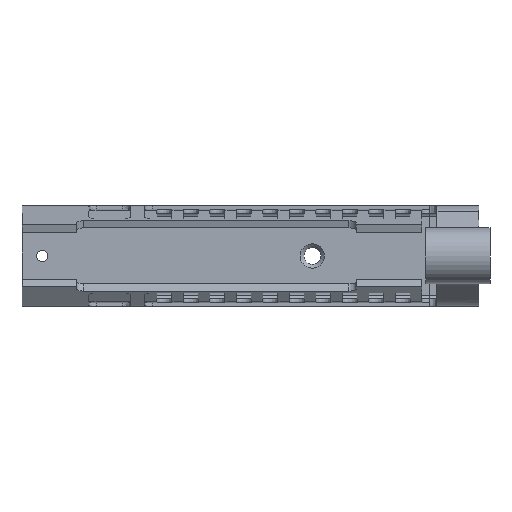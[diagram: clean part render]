
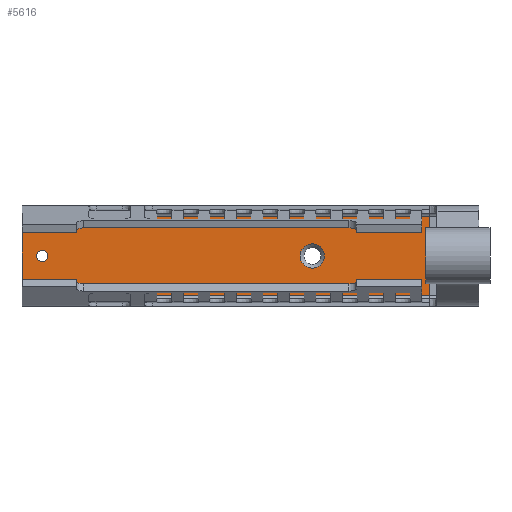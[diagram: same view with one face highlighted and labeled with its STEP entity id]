
A CAD part, top view. The second image highlights one B-rep face of the part: STEP entity #5616.
In plain terms, the highlighted planar face has unit normal (0, 0, 1).
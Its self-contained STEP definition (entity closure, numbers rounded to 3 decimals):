
#19=FACE_BOUND('',#991,.T.);
#20=FACE_BOUND('',#992,.T.);
#298=PLANE('',#6115);
#674=FACE_OUTER_BOUND('',#990,.T.);
#990=EDGE_LOOP('',(#5107,#5108,#5109,#5110));
#991=EDGE_LOOP('',(#5111));
#992=EDGE_LOOP('',(#5112));
#1482=LINE('',#10645,#2006);
#1494=LINE('',#10677,#2018);
#1496=LINE('',#10681,#2020);
#1498=LINE('',#10685,#2022);
#2006=VECTOR('',#7463,10.);
#2018=VECTOR('',#7499,10.);
#2020=VECTOR('',#7505,10.);
#2022=VECTOR('',#7511,10.);
#2103=CIRCLE('',#5692,2.25);
#2104=CIRCLE('',#5694,4.8);
#2341=VERTEX_POINT('',#7788);
#2342=VERTEX_POINT('',#7792);
#2753=VERTEX_POINT('',#10635);
#2754=VERTEX_POINT('',#10639);
#2761=VERTEX_POINT('',#10667);
#2762=VERTEX_POINT('',#10671);
#2835=EDGE_CURVE('',#2341,#2341,#2103,.T.);
#2836=EDGE_CURVE('',#2342,#2342,#2104,.T.);
#3530=EDGE_CURVE('',#2753,#2754,#1482,.T.);
#3546=EDGE_CURVE('',#2761,#2762,#1494,.T.);
#3548=EDGE_CURVE('',#2754,#2761,#1496,.T.);
#3550=EDGE_CURVE('',#2762,#2753,#1498,.T.);
#5107=ORIENTED_EDGE('',*,*,#3530,.T.);
#5108=ORIENTED_EDGE('',*,*,#3548,.T.);
#5109=ORIENTED_EDGE('',*,*,#3546,.T.);
#5110=ORIENTED_EDGE('',*,*,#3550,.T.);
#5111=ORIENTED_EDGE('',*,*,#2835,.T.);
#5112=ORIENTED_EDGE('',*,*,#2836,.T.);
#5616=ADVANCED_FACE('',(#674,#19,#20),#298,.T.);
#5692=AXIS2_PLACEMENT_3D('',#7790,#6222,#6223);
#5694=AXIS2_PLACEMENT_3D('',#7793,#6226,#6227);
#6115=AXIS2_PLACEMENT_3D('',#10686,#7512,#7513);
#6222=DIRECTION('center_axis',(0.,0.,-1.));
#6223=DIRECTION('ref_axis',(-1.,0.,0.));
#6226=DIRECTION('center_axis',(0.,0.,-1.));
#6227=DIRECTION('ref_axis',(1.,0.,0.));
#7463=DIRECTION('',(-1.,0.,0.));
#7499=DIRECTION('',(1.,0.,0.));
#7505=DIRECTION('',(0.,-1.,0.));
#7511=DIRECTION('',(0.,1.,0.));
#7512=DIRECTION('center_axis',(0.,0.,1.));
#7513=DIRECTION('ref_axis',(1.,0.,0.));
#7788=CARTESIAN_POINT('',(10.25,20.,3.));
#7790=CARTESIAN_POINT('Origin',(8.,20.,3.));
#7792=CARTESIAN_POINT('',(110.2,20.,3.));
#7793=CARTESIAN_POINT('Origin',(115.,20.,3.));
#10635=CARTESIAN_POINT('',(161.4,35.5,3.));
#10639=CARTESIAN_POINT('',(0.,35.5,3.));
#10645=CARTESIAN_POINT('',(121.05,35.5,3.));
#10667=CARTESIAN_POINT('',(0.,4.5,3.));
#10671=CARTESIAN_POINT('',(161.4,4.5,3.));
#10677=CARTESIAN_POINT('',(40.35,4.5,3.));
#10681=CARTESIAN_POINT('',(0.,40.,3.));
#10685=CARTESIAN_POINT('',(161.4,40.,3.));
#10686=CARTESIAN_POINT('Origin',(80.7,20.,3.));
